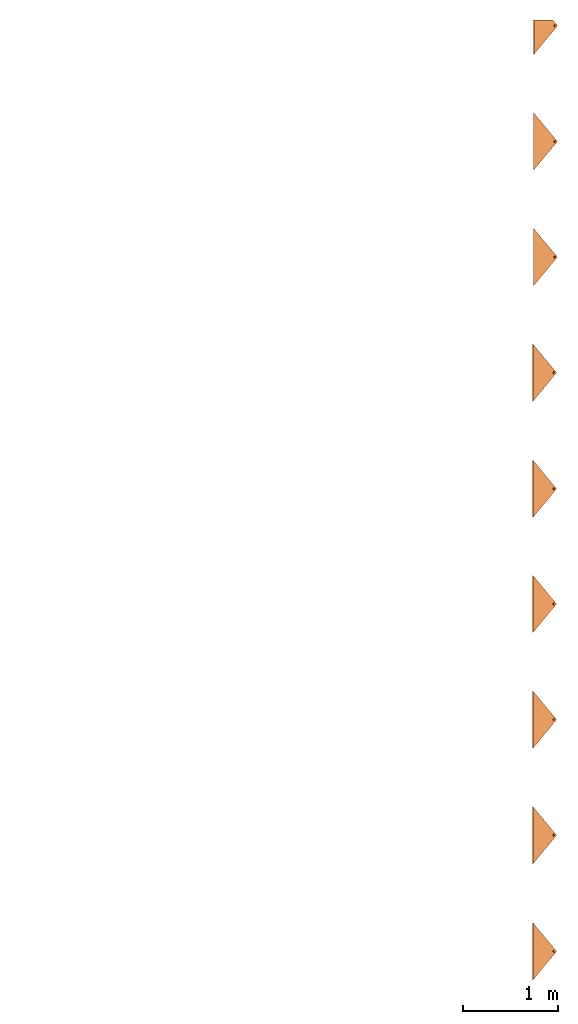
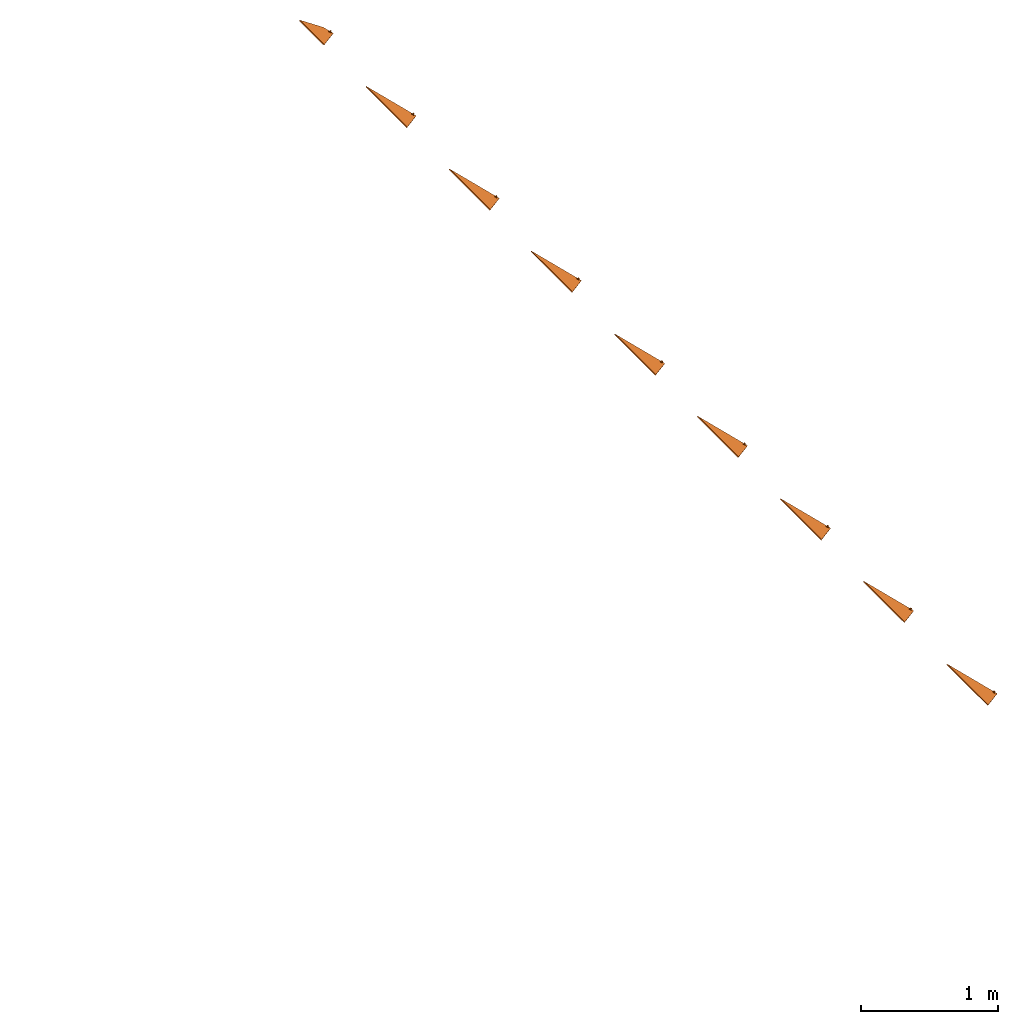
# One storey, part 1 of 2: 9 proxies.
"""IFC2X3 building model written with IfcOpenShell, lengths in millimetres."""

from ifc_helpers import new_model, entity, si_unit, converted_unit, derived_unit, direction, frame, origin, place, context, subcontext, project, spatial, faceted_brep, source, transform, mapped, material, material_list, type_object, type_shapes, element, save


model = new_model("IFC2X3")

# Units and contexts
model_context = context("Model", 3, precision=0.01, world=origin(), true_north=direction((6.12303176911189e-17, 1.0)))
body_context = subcontext(model_context, "Body", "Model", "MODEL_VIEW")
ifc_project = project(units=[si_unit("LENGTHUNIT", "METRE", prefix="MILLI"), si_unit("AREAUNIT", "SQUARE_METRE"), si_unit("VOLUMEUNIT", "CUBIC_METRE"), converted_unit("PLANEANGLEUNIT", "DEGREE", entity("IfcRatioMeasure", 0.0174532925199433), si_unit("PLANEANGLEUNIT", "RADIAN"), dimensions=[0, 0, 0, 0, 0, 0, 0]), si_unit("MASSUNIT", "GRAM", prefix="KILO"), derived_unit("MASSDENSITYUNIT", [(si_unit("MASSUNIT", "GRAM", prefix="KILO"), 1), (si_unit("LENGTHUNIT", "METRE"), -3)]), si_unit("TIMEUNIT", "SECOND"), si_unit("FREQUENCYUNIT", "HERTZ"), si_unit("THERMODYNAMICTEMPERATUREUNIT", "DEGREE_CELSIUS"), derived_unit("THERMALTRANSMITTANCEUNIT", [(si_unit("MASSUNIT", "GRAM", prefix="KILO"), 1), (si_unit("THERMODYNAMICTEMPERATUREUNIT", "KELVIN"), -1), (si_unit("TIMEUNIT", "SECOND"), -3)]), derived_unit("VOLUMETRICFLOWRATEUNIT", [(si_unit("LENGTHUNIT", "METRE"), 3), (si_unit("TIMEUNIT", "SECOND"), -1)]), si_unit("ELECTRICCURRENTUNIT", "AMPERE"), si_unit("ELECTRICVOLTAGEUNIT", "VOLT"), si_unit("POWERUNIT", "WATT"), si_unit("FORCEUNIT", "NEWTON", prefix="KILO"), si_unit("ILLUMINANCEUNIT", "LUX"), si_unit("LUMINOUSFLUXUNIT", "LUMEN"), si_unit("LUMINOUSINTENSITYUNIT", "CANDELA"), derived_unit("USERDEFINED", [(si_unit("MASSUNIT", "GRAM", prefix="KILO"), -1), (si_unit("LENGTHUNIT", "METRE"), -2), (si_unit("TIMEUNIT", "SECOND"), 3), (si_unit("LUMINOUSFLUXUNIT", "LUMEN"), 1)]), derived_unit("LINEARVELOCITYUNIT", [(si_unit("LENGTHUNIT", "METRE"), 1), (si_unit("TIMEUNIT", "SECOND"), -1)]), si_unit("PRESSUREUNIT", "PASCAL"), derived_unit("USERDEFINED", [(si_unit("LENGTHUNIT", "METRE"), -2), (si_unit("MASSUNIT", "GRAM", prefix="KILO"), 1), (si_unit("TIMEUNIT", "SECOND"), -2)])], contexts=[model_context])

# Site, building, storey
site_placement = place(None, origin())
site = spatial("IfcSite", under=ifc_project, at=site_placement, Name="Default", CompositionType="ELEMENT")
building_placement = place(site_placement, origin())
building = spatial("IfcBuilding", under=site, at=building_placement, CompositionType="ELEMENT")
storey_placement = place(building_placement, frame((0.0, 0.0, 2687.5)))
storey = spatial("IfcBuildingStorey", under=building, at=storey_placement, Name="Level 2", CompositionType="ELEMENT", Elevation=2687.5)

# Proxies
ifc_material_1 = material(Name="Rubber - Sunstyle - Black")
ifc_material_2 = material(Name="Glass - Sunstyle - Tainted Black")
ifc_material_list_1 = material_list([ifc_material_1, ifc_material_2])
ifc_material_list_2 = material_list([ifc_material_1, ifc_material_2])
building_element_proxy_type_1 = type_object("IfcBuildingElementProxyType", Name="Corner Top Small Right - Black", PredefinedType="NOTDEFINED", material=ifc_material_list_2)
shared_shape_1 = source(origin(), body_context, "Body", "Brep", [
    faceted_brep([(300.309183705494, 41.6050579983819, 1.59527223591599), (294.534980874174, 38.2717878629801, 1.65109621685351), (294.534980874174, 38.6400969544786, 23.6429655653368), (300.309183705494, 41.9733670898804, 23.5871415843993), (294.534980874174, 31.6052475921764, 1.76274417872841), (294.534980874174, 31.9735566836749, 23.7546135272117), (300.309183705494, 28.2719774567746, 1.81856815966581), (300.309183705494, 28.640286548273, 23.8104375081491), (306.083386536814, 31.6052475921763, 1.7627441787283), (306.083386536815, 31.9735566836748, 23.7546135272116), (306.083386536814, 38.2717878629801, 1.65109621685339), (306.083386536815, 38.6400969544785, 23.6429655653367), (291.705479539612, 26.704328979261, 23.8428599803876), (300.309183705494, 23.1410577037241, 23.9025359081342), (288.141708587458, 35.3068268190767, 23.6987895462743), (291.705479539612, 43.9093246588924, 23.5547191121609), (300.309183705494, 47.4725959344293, 23.4950431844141), (308.912887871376, 43.9093246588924, 23.5547191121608), (312.476658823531, 35.3068268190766, 23.6987895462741), (308.912887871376, 26.704328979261, 23.8428599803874), (288.984939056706, 37.6019039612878, 26.0116314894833), (290.552709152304, 35.3778417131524, 27.9391141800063), (300.309183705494, 42.6909169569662, 28.5718145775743), (300.309183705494, 43.9314145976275, 27.9914679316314), (300.309183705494, 46.0889654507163, 26.98209285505), (300.309183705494, 23.6971017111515, 25.1775938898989), (300.309183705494, 24.6406783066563, 27.3412982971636), (300.309183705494, 28.0900540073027, 28.8163427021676), (300.309183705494, 46.9595598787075, 24.7880055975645), (293.985938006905, 31.7402697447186, 28.7552106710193), (293.985938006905, 39.0407012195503, 28.6329466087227), (311.633428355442, 33.0904837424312, 26.0871865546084), (310.15806385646, 34.3034352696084, 27.8602460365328), (306.632429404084, 39.0407012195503, 28.6329466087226), (306.632429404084, 31.7402697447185, 28.7552106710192), (293.985938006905, 31.8742982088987, 36.7580988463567), (300.309183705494, 28.224082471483, 36.8192308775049), (300.309183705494, 35.5245139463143, 36.6969668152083), (293.985938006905, 39.17472968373, 36.6358347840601), (306.632429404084, 31.8742982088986, 36.7580988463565), (306.632429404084, 39.1747296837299, 36.6358347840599), (300.309183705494, 42.8249454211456, 36.5747027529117), (300.309183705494, 34.9385177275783, 1.7069201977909)], [[[0, 1, 2, 3]], [[1, 4, 5, 2]], [[4, 6, 7, 5]], [[6, 8, 9, 7]], [[8, 10, 11, 9]], [[10, 0, 3, 11]], [[12, 7, 13]], [[7, 12, 5]], [[14, 5, 12]], [[5, 14, 2]], [[15, 2, 14]], [[3, 2, 15]], [[15, 16, 3]], [[16, 17, 3]], [[11, 3, 17]], [[11, 17, 18]], [[9, 11, 18]], [[18, 19, 9]], [[7, 9, 19]], [[19, 13, 7]], [[20, 14, 12]], [[21, 22, 23, 24]], [[24, 20, 21]], [[25, 20, 12]], [[26, 27, 21]], [[15, 14, 20]], [[12, 13, 25]], [[20, 28, 15]], [[28, 20, 24]], [[21, 27, 29]], [[21, 29, 30]], [[26, 21, 20]], [[20, 25, 26]], [[15, 28, 16]], [[21, 30, 22]], [[31, 18, 17]], [[28, 31, 17]], [[32, 27, 26]], [[26, 31, 32]], [[26, 25, 31]], [[25, 19, 31]], [[17, 16, 28]], [[31, 19, 18]], [[24, 31, 28]], [[33, 34, 32]], [[23, 22, 33]], [[24, 32, 31]], [[27, 32, 34]], [[32, 23, 33]], [[19, 25, 13]], [[32, 24, 23]], [[35, 36, 37]], [[37, 38, 35]], [[36, 39, 37]], [[40, 37, 39]], [[37, 40, 41]], [[37, 41, 38]], [[42, 6, 4]], [[4, 1, 42]], [[1, 0, 42]], [[42, 8, 6]], [[0, 10, 42]], [[8, 42, 10]], [[22, 30, 38, 41]], [[30, 29, 35, 38]], [[29, 27, 36, 35]], [[27, 34, 39, 36]], [[34, 33, 40, 39]], [[33, 22, 41, 40]]]),
    faceted_brep([(300.700466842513, 0.125588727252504, 24.1962208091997), (304.302649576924, 28.4261395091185, 23.7222570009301), (302.373201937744, 27.6270481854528, 23.7356397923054), (305.959503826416, 29.6973102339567, 23.7009680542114), (300.302649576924, 27.3544930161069, 23.7402044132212), (307.230852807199, 31.3539321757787, 23.6732237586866), (360.803898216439, 60.2121670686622, 23.189920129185), (298.232097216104, 27.6270481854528, 23.7356397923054), (296.302649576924, 28.4261395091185, 23.7222570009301), (294.645795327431, 29.6973102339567, 23.7009680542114), (293.374446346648, 31.3539321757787, 23.6732237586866), (292.575242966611, 33.2831092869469, 23.6409148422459), (0.0, 300.741739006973, 19.1616482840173), (308.030056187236, 33.2831092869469, 23.6409148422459), (308.302649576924, 35.3533713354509, 23.6062431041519), (308.030056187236, 37.4236333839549, 23.5715713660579), (307.230852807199, 39.3528104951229, 23.5392624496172), (305.959503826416, 41.0094324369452, 23.5115181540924), (304.302649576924, 42.2806031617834, 23.4902292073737), (302.373201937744, 43.079694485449, 23.4768464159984), (300.302649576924, 43.3522496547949, 23.4722817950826), (360.803898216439, 300.741739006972, 19.1616482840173), (298.232097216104, 43.079694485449, 23.4768464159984), (296.302649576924, 42.2806031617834, 23.4902292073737), (294.645795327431, 41.009432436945, 23.5115181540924), (292.302649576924, 35.3533713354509, 23.6062431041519), (292.575242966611, 37.4236333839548, 23.5715713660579), (293.374446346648, 39.3528104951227, 23.5392624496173), (300.302649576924, 43.2266609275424, 15.9733333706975), (360.803898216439, 300.616150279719, 11.6626998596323), (360.803898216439, 60.0865783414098, 15.6909717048), (302.373201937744, 42.9541057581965, 15.9778979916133), (298.232097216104, 42.9541057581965, 15.9778979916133), (296.302649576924, 42.1550144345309, 15.9912807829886), (0.0, 300.61615027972, 11.6626998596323), (294.645795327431, 40.8838437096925, 16.0125697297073), (293.374446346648, 39.2272217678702, 16.0403140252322), (292.575242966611, 37.2980446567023, 16.0726229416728), (292.302649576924, 35.2277826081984, 16.1072946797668), (292.575242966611, 33.1575205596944, 16.1419664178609), (300.700466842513, 0.0, 16.6972723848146), (293.374446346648, 31.2283434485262, 16.1742753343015), (294.645795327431, 29.5717215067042, 16.2020196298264), (296.302649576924, 28.300550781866, 16.2233085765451), (298.232097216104, 27.5014594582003, 16.2366913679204), (300.302649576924, 27.2289042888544, 16.2412559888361), (302.373201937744, 27.5014594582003, 16.2366913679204), (304.302649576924, 28.300550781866, 16.2233085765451), (305.959503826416, 29.5717215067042, 16.2020196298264), (307.230852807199, 31.2283434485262, 16.1742753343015), (308.030056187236, 33.1575205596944, 16.1419664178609), (308.302649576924, 35.2277826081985, 16.1072946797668), (308.030056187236, 37.2980446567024, 16.0726229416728), (307.230852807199, 39.2272217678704, 16.0403140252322), (305.959503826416, 40.8838437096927, 16.0125697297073), (304.302649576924, 42.1550144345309, 15.9912807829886)], [[[0, 1, 2]], [[1, 0, 3]], [[0, 2, 4]], [[5, 3, 0]], [[5, 0, 6]], [[4, 7, 0]], [[7, 8, 0]], [[8, 9, 0]], [[9, 10, 0]], [[10, 11, 0]], [[0, 11, 12]], [[6, 13, 5]], [[14, 13, 6]], [[15, 14, 6]], [[16, 15, 6]], [[17, 16, 6]], [[6, 18, 17]], [[19, 18, 6]], [[19, 6, 20]], [[6, 21, 20]], [[20, 21, 22]], [[23, 22, 21]], [[12, 23, 21]], [[23, 12, 24]], [[11, 25, 12]], [[26, 12, 25]], [[26, 27, 12]], [[27, 24, 12]], [[28, 29, 30]], [[28, 30, 31]], [[32, 29, 28]], [[32, 33, 29]], [[29, 33, 34]], [[33, 35, 34]], [[35, 36, 34]], [[36, 37, 34]], [[34, 37, 38]], [[38, 39, 34]], [[40, 34, 39]], [[39, 41, 40]], [[41, 42, 40]], [[42, 43, 40]], [[44, 40, 43]], [[44, 45, 40]], [[46, 40, 45]], [[40, 46, 47]], [[47, 48, 40]], [[48, 49, 40]], [[50, 30, 49]], [[30, 40, 49]], [[50, 51, 30]], [[30, 51, 52]], [[52, 53, 30]], [[53, 54, 30]], [[54, 55, 30]], [[31, 30, 55]], [[0, 12, 34, 40]], [[6, 0, 40, 30]], [[25, 38, 37, 26]], [[26, 37, 36, 27]], [[23, 24, 35, 33]], [[35, 24, 27, 36]], [[22, 23, 33, 32]], [[22, 32, 28, 20]], [[20, 28, 31, 19]], [[19, 31, 55, 18]], [[16, 17, 54, 53]], [[54, 17, 18, 55]], [[15, 16, 53, 52]], [[15, 52, 51, 14]], [[14, 51, 50, 13]], [[13, 50, 49, 5]], [[1, 3, 48, 47]], [[48, 3, 5, 49]], [[2, 1, 47, 46]], [[2, 46, 45, 4]], [[4, 45, 44, 7]], [[7, 44, 43, 8]], [[10, 9, 42, 41]], [[42, 9, 8, 43]], [[11, 10, 41, 39]], [[11, 39, 38, 25]], [[12, 21, 29, 34]], [[21, 6, 30, 29]]]),
])
type_shapes(building_element_proxy_type_1, [shared_shape_1])
proxy_1_placement = place(storey_placement, frame((1540.21991743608, 3564.29129595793, -87.5151384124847), z_axis=(0.573576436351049, 0.0, 0.81915204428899), x_axis=(0.0, 1.0, 0.0)))
element("IfcBuildingElementProxy", 1, at=proxy_1_placement, inside=storey, type_object=building_element_proxy_type_1, material=ifc_material_list_1, Name="Roofing_Panels_SunStyle_Tile_Corner-Top-Small-Right:Corner Top Small Right - Black", ObjectType="Roofing_Panels_SunStyle_Tile_Corner-Top-Small-Right:Corner Top Small Right - Black", context=body_context, shape_type="MappedRepresentation", body=[
    mapped(shared_shape_1, transform((0.0, 0.0, 0.0), scale=1.0)),
])
ifc_material_list_3 = material_list([ifc_material_1, ifc_material_2])
ifc_material_list_4 = material_list([ifc_material_1, ifc_material_2])
building_element_proxy_type_2 = type_object("IfcBuildingElementProxyType", Name="Shingle Top Small - Black", PredefinedType="NOTDEFINED", material=ifc_material_list_4)
shared_shape_2 = source(origin(), body_context, "Body", "Brep", [
    faceted_brep([(300.675008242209, 41.77298489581, 1.59527223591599), (294.900805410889, 38.4397147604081, 1.65109621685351), (294.900805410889, 38.8080238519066, 23.6429655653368), (300.675008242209, 42.1412939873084, 23.5871415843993), (294.900805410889, 31.7731744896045, 1.76274417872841), (294.900805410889, 32.1414835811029, 23.7546135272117), (300.675008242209, 28.4399043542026, 1.81856815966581), (300.675008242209, 28.808213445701, 23.8104375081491), (306.44921107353, 31.7731744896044, 1.7627441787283), (306.44921107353, 32.1414835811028, 23.7546135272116), (306.44921107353, 38.4397147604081, 1.65109621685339), (306.44921107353, 38.8080238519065, 23.6429655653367), (292.071304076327, 26.8722558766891, 23.8428599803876), (300.675008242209, 23.3089846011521, 23.9025359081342), (288.507533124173, 35.4747537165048, 23.6987895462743), (292.071304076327, 44.0772515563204, 23.5547191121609), (300.675008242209, 47.6405228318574, 23.4950431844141), (309.278712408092, 44.0772515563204, 23.5547191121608), (312.842483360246, 35.4747537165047, 23.6987895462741), (309.278712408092, 26.872255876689, 23.8428599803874), (289.350763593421, 37.7698308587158, 26.0116314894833), (290.91853368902, 35.5457686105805, 27.9391141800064), (300.67500824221, 42.8588438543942, 28.5718145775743), (300.67500824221, 44.0993414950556, 27.9914679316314), (300.675008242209, 46.2568923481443, 26.98209285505), (300.675008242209, 23.8650286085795, 25.1775938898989), (300.675008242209, 24.8086052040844, 27.3412982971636), (300.675008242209, 28.2579809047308, 28.8163427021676), (300.675008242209, 47.1274867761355, 24.7880055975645), (294.35176254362, 31.9081966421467, 28.7552106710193), (294.35176254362, 39.2086281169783, 28.6329466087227), (311.999252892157, 33.2584106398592, 26.0871865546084), (310.523888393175, 34.4713621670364, 27.8602460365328), (306.998253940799, 39.2086281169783, 28.6329466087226), (306.998253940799, 31.9081966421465, 28.7552106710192), (294.35176254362, 32.0422251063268, 36.7580988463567), (300.67500824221, 28.3920093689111, 36.8192308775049), (300.67500824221, 35.6924408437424, 36.6969668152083), (294.35176254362, 39.342656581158, 36.6358347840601), (306.998253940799, 32.0422251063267, 36.7580988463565), (306.998253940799, 39.342656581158, 36.6358347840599), (300.67500824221, 42.9928723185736, 36.5747027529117), (300.675008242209, 35.1064446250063, 1.7069201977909)], [[[0, 1, 2, 3]], [[1, 4, 5, 2]], [[4, 6, 7, 5]], [[6, 8, 9, 7]], [[8, 10, 11, 9]], [[10, 0, 3, 11]], [[12, 7, 13]], [[7, 12, 5]], [[14, 5, 12]], [[5, 14, 2]], [[15, 2, 14]], [[3, 2, 15]], [[15, 16, 3]], [[16, 17, 3]], [[11, 3, 17]], [[11, 17, 18]], [[9, 11, 18]], [[18, 19, 9]], [[7, 9, 19]], [[19, 13, 7]], [[20, 14, 12]], [[21, 22, 23, 24]], [[24, 20, 21]], [[25, 20, 12]], [[26, 27, 21]], [[15, 14, 20]], [[12, 13, 25]], [[20, 28, 15]], [[28, 20, 24]], [[21, 27, 29]], [[21, 29, 30]], [[26, 21, 20]], [[20, 25, 26]], [[15, 28, 16]], [[21, 30, 22]], [[31, 18, 17]], [[28, 31, 17]], [[32, 27, 26]], [[26, 31, 32]], [[26, 25, 31]], [[25, 19, 31]], [[17, 16, 28]], [[31, 19, 18]], [[24, 31, 28]], [[33, 34, 32]], [[23, 22, 33]], [[24, 32, 31]], [[27, 32, 34]], [[32, 23, 33]], [[19, 25, 13]], [[32, 24, 23]], [[35, 36, 37]], [[37, 38, 35]], [[36, 39, 37]], [[40, 37, 39]], [[37, 40, 41]], [[37, 41, 38]], [[42, 6, 4]], [[4, 1, 42]], [[1, 0, 42]], [[42, 8, 6]], [[0, 10, 42]], [[8, 42, 10]], [[22, 30, 38, 41]], [[30, 29, 35, 38]], [[29, 27, 36, 35]], [[27, 34, 39, 36]], [[34, 33, 40, 39]], [[33, 22, 41, 40]]]),
    faceted_brep([(601.350661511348, 300.716609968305, 19.1616152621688), (307.603211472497, 39.4797476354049, 23.5366826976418), (308.402414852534, 37.5505705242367, 23.5689916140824), (306.331862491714, 41.1363695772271, 23.5089384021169), (308.675008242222, 35.4803084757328, 23.6036633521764), (304.675008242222, 42.4075403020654, 23.4876494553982), (302.745560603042, 43.206631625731, 23.4742666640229), (300.675008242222, 43.4791867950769, 23.4697020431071), (308.402414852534, 33.4100464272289, 23.6383350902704), (300.675330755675, 0.125588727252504, 24.1957669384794), (0.0, 300.716609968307, 19.1616152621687), (298.604455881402, 43.2066316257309, 23.4742666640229), (296.675008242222, 42.4075403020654, 23.4876494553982), (295.018153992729, 41.136369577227, 23.5089384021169), (293.746805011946, 39.4797476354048, 23.5366826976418), (292.947601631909, 37.5505705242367, 23.5689916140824), (292.675008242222, 35.4803084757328, 23.6036633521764), (292.947601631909, 33.4100464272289, 23.6383350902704), (293.746805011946, 31.4808693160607, 23.6706440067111), (307.603211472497, 31.4808693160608, 23.6706440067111), (306.331862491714, 29.8242473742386, 23.698388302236), (304.675008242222, 28.5530766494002, 23.7196772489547), (302.745560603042, 27.7539853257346, 23.73306004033), (300.675008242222, 27.4814301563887, 23.7376246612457), (298.604455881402, 27.7539853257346, 23.73306004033), (296.675008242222, 28.5530766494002, 23.7196772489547), (295.018153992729, 29.8242473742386, 23.698388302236), (0.0, 300.591021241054, 11.6626668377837), (295.018153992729, 41.0107808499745, 16.0099899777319), (293.746805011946, 39.3541589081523, 16.0377342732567), (296.675008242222, 42.2819515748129, 15.9887010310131), (292.947601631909, 37.4249817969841, 16.0700431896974), (298.604455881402, 43.0810428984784, 15.9753182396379), (300.675008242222, 43.3535980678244, 15.9707536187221), (601.350661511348, 300.591021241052, 11.6626668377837), (292.675008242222, 35.3547197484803, 16.1047149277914), (292.947601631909, 33.2844576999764, 16.1393866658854), (300.675330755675, 0.0, 16.6968185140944), (302.745560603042, 43.0810428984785, 15.9753182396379), (304.675008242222, 42.2819515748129, 15.9887010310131), (306.331862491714, 41.0107808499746, 16.0099899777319), (307.603211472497, 39.3541589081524, 16.0377342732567), (308.402414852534, 37.4249817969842, 16.0700431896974), (308.675008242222, 35.3547197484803, 16.1047149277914), (308.402414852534, 33.2844576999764, 16.1393866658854), (307.603211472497, 31.3552805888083, 16.171695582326), (293.746805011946, 31.3552805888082, 16.171695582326), (295.018153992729, 29.6986586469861, 16.1994398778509), (296.675008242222, 28.4274879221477, 16.2207288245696), (298.604455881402, 27.6283965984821, 16.2341116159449), (300.675008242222, 27.3558414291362, 16.2386762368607), (302.745560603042, 27.6283965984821, 16.2341116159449), (304.675008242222, 28.4274879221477, 16.2207288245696), (306.331862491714, 29.6986586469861, 16.1994398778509)], [[[0, 1, 2]], [[1, 0, 3]], [[0, 2, 4]], [[5, 3, 0]], [[6, 5, 0]], [[0, 7, 6]], [[4, 8, 0]], [[8, 9, 0]], [[7, 0, 10]], [[11, 7, 10]], [[12, 11, 10]], [[10, 13, 12]], [[13, 10, 14]], [[15, 14, 10]], [[10, 16, 15]], [[17, 16, 10]], [[10, 9, 17]], [[17, 9, 18]], [[8, 19, 9]], [[20, 9, 19]], [[20, 21, 9]], [[22, 9, 21]], [[23, 9, 22]], [[23, 24, 9]], [[24, 25, 9]], [[25, 26, 9]], [[9, 26, 18]], [[27, 28, 29]], [[28, 27, 30]], [[27, 29, 31]], [[32, 30, 27]], [[33, 32, 27]], [[27, 34, 33]], [[31, 35, 27]], [[35, 36, 27]], [[27, 36, 37]], [[38, 33, 34]], [[39, 38, 34]], [[40, 39, 34]], [[34, 41, 40]], [[41, 34, 42]], [[43, 42, 34]], [[34, 44, 43]], [[37, 44, 34]], [[45, 44, 37]], [[37, 36, 46]], [[37, 46, 47]], [[47, 48, 37]], [[48, 49, 37]], [[50, 37, 49]], [[50, 51, 37]], [[37, 51, 52]], [[52, 53, 37]], [[45, 37, 53]], [[9, 10, 27, 37]], [[0, 9, 37, 34]], [[16, 35, 31, 15]], [[15, 31, 29, 14]], [[12, 13, 28, 30]], [[28, 13, 14, 29]], [[11, 12, 30, 32]], [[11, 32, 33, 7]], [[7, 33, 38, 6]], [[6, 38, 39, 5]], [[1, 3, 40, 41]], [[40, 3, 5, 39]], [[2, 1, 41, 42]], [[2, 42, 43, 4]], [[4, 43, 44, 8]], [[8, 44, 45, 19]], [[21, 20, 53, 52]], [[53, 20, 19, 45]], [[22, 21, 52, 51]], [[22, 51, 50, 23]], [[23, 50, 49, 24]], [[24, 49, 48, 25]], [[18, 26, 47, 46]], [[47, 26, 25, 48]], [[17, 18, 46, 36]], [[17, 36, 35, 16]], [[10, 0, 34, 27]]]),
])
type_shapes(building_element_proxy_type_2, [shared_shape_2])
proxy_2_placement = place(storey_placement, frame((1538.39606873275, 2348.42018593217, -86.2380658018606), z_axis=(0.573576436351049, 0.0, 0.81915204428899), x_axis=(0.0, 1.0, 0.0)))
element("IfcBuildingElementProxy", 2, at=proxy_2_placement, inside=storey, type_object=building_element_proxy_type_2, material=ifc_material_list_3, Name="Roofing_Panels_SunStyle_Tile_Shingle-Top-Small:Shingle Top Small - Black", ObjectType="Roofing_Panels_SunStyle_Tile_Shingle-Top-Small:Shingle Top Small - Black", context=body_context, shape_type="MappedRepresentation", body=[
    mapped(shared_shape_2, transform((0.0, 0.0, 0.0), scale=1.0)),
])
ifc_material_list_5 = material_list([ifc_material_1, ifc_material_2])
proxy_3_placement = place(storey_placement, frame((1538.39606873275, 1133.42018593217, -86.2380658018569), z_axis=(0.573576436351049, 0.0, 0.81915204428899), x_axis=(0.0, 1.0, 0.0)))
element("IfcBuildingElementProxy", 3, at=proxy_3_placement, inside=storey, type_object=building_element_proxy_type_2, material=ifc_material_list_5, Name="Roofing_Panels_SunStyle_Tile_Shingle-Top-Small:Shingle Top Small - Black", ObjectType="Roofing_Panels_SunStyle_Tile_Shingle-Top-Small:Shingle Top Small - Black", context=body_context, shape_type="MappedRepresentation", body=[
    mapped(shared_shape_2, transform((0.0, 0.0, 0.0), scale=1.0)),
])
ifc_material_list_6 = material_list([ifc_material_1, ifc_material_2])
proxy_4_placement = place(storey_placement, frame((1530.20454828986, -81.5798140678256, -80.5023014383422), z_axis=(0.573576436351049, 0.0, 0.81915204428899), x_axis=(0.0, 1.0, 0.0)))
element("IfcBuildingElementProxy", 4, at=proxy_4_placement, inside=storey, type_object=building_element_proxy_type_2, material=ifc_material_list_6, Name="Roofing_Panels_SunStyle_Tile_Shingle-Top-Small:Shingle Top Small - Black", ObjectType="Roofing_Panels_SunStyle_Tile_Shingle-Top-Small:Shingle Top Small - Black", context=body_context, shape_type="MappedRepresentation", body=[
    mapped(shared_shape_2, transform((0.0, 0.0, 0.0), scale=1.0)),
])
ifc_material_list_7 = material_list([ifc_material_1, ifc_material_2])
proxy_5_placement = place(storey_placement, frame((1530.20454828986, -1301.57981406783, -80.5023014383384), z_axis=(0.573576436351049, 0.0, 0.81915204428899), x_axis=(0.0, 1.0, 0.0)))
element("IfcBuildingElementProxy", 5, at=proxy_5_placement, inside=storey, type_object=building_element_proxy_type_2, material=ifc_material_list_7, Name="Roofing_Panels_SunStyle_Tile_Shingle-Top-Small:Shingle Top Small - Black", ObjectType="Roofing_Panels_SunStyle_Tile_Shingle-Top-Small:Shingle Top Small - Black", context=body_context, shape_type="MappedRepresentation", body=[
    mapped(shared_shape_2, transform((0.0, 0.0, 0.0), scale=1.0)),
])
ifc_material_list_8 = material_list([ifc_material_1, ifc_material_2])
proxy_6_placement = place(storey_placement, frame((1530.20454828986, -2511.57981406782, -80.5023014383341), z_axis=(0.573576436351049, 0.0, 0.81915204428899), x_axis=(0.0, 1.0, 0.0)))
element("IfcBuildingElementProxy", 6, at=proxy_6_placement, inside=storey, type_object=building_element_proxy_type_2, material=ifc_material_list_8, Name="Roofing_Panels_SunStyle_Tile_Shingle-Top-Small:Shingle Top Small - Black", ObjectType="Roofing_Panels_SunStyle_Tile_Shingle-Top-Small:Shingle Top Small - Black", context=body_context, shape_type="MappedRepresentation", body=[
    mapped(shared_shape_2, transform((0.0, 0.0, 0.0), scale=1.0)),
])
ifc_material_list_9 = material_list([ifc_material_1, ifc_material_2])
proxy_7_placement = place(storey_placement, frame((1530.20454828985, -3726.57981406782, -80.5023014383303), z_axis=(0.573576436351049, 0.0, 0.81915204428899), x_axis=(0.0, 1.0, 0.0)))
element("IfcBuildingElementProxy", 7, at=proxy_7_placement, inside=storey, type_object=building_element_proxy_type_2, material=ifc_material_list_9, Name="Roofing_Panels_SunStyle_Tile_Shingle-Top-Small:Shingle Top Small - Black", ObjectType="Roofing_Panels_SunStyle_Tile_Shingle-Top-Small:Shingle Top Small - Black", context=body_context, shape_type="MappedRepresentation", body=[
    mapped(shared_shape_2, transform((0.0, 0.0, 0.0), scale=1.0)),
])
ifc_material_list_10 = material_list([ifc_material_1, ifc_material_2])
proxy_8_placement = place(storey_placement, frame((1530.20454828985, -4941.57981406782, -80.5023014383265), z_axis=(0.573576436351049, 0.0, 0.81915204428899), x_axis=(0.0, 1.0, 0.0)))
element("IfcBuildingElementProxy", 8, at=proxy_8_placement, inside=storey, type_object=building_element_proxy_type_2, material=ifc_material_list_10, Name="Roofing_Panels_SunStyle_Tile_Shingle-Top-Small:Shingle Top Small - Black", ObjectType="Roofing_Panels_SunStyle_Tile_Shingle-Top-Small:Shingle Top Small - Black", context=body_context, shape_type="MappedRepresentation", body=[
    mapped(shared_shape_2, transform((0.0, 0.0, 0.0), scale=1.0)),
])
ifc_material_list_11 = material_list([ifc_material_1, ifc_material_2])
proxy_9_placement = place(storey_placement, frame((1530.20454828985, -6161.57981406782, -80.5023014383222), z_axis=(0.573576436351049, 0.0, 0.81915204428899), x_axis=(0.0, 1.0, 0.0)))
element("IfcBuildingElementProxy", 9, at=proxy_9_placement, inside=storey, type_object=building_element_proxy_type_2, material=ifc_material_list_11, Name="Roofing_Panels_SunStyle_Tile_Shingle-Top-Small:Shingle Top Small - Black", ObjectType="Roofing_Panels_SunStyle_Tile_Shingle-Top-Small:Shingle Top Small - Black", context=body_context, shape_type="MappedRepresentation", body=[
    mapped(shared_shape_2, transform((0.0, 0.0, 0.0), scale=1.0)),
])

save(model, "model.ifc")
